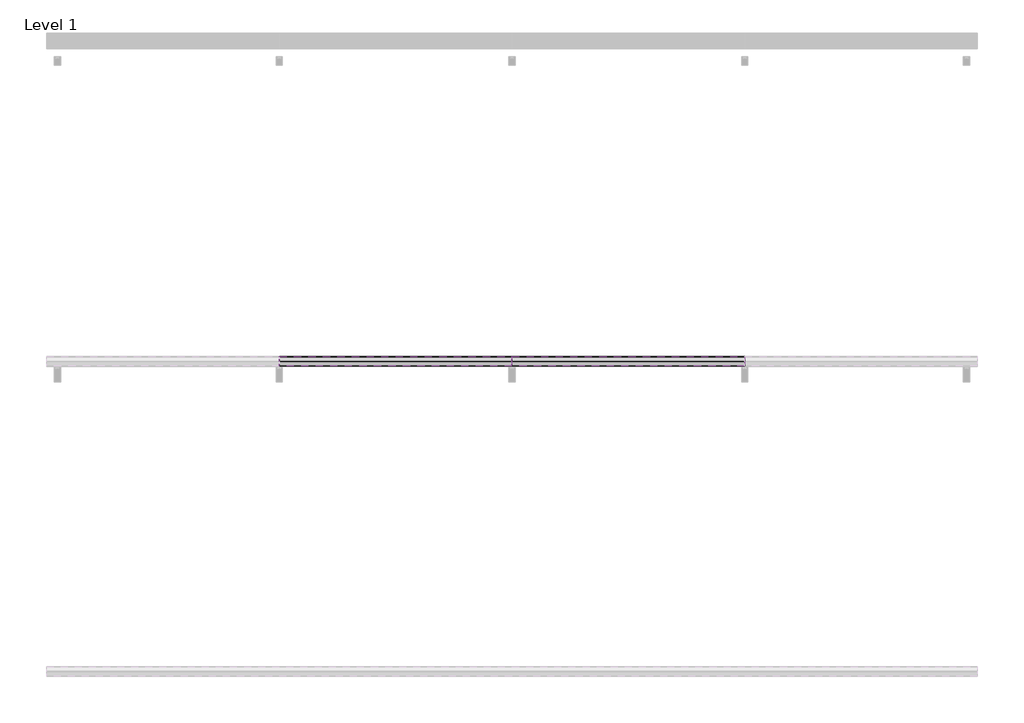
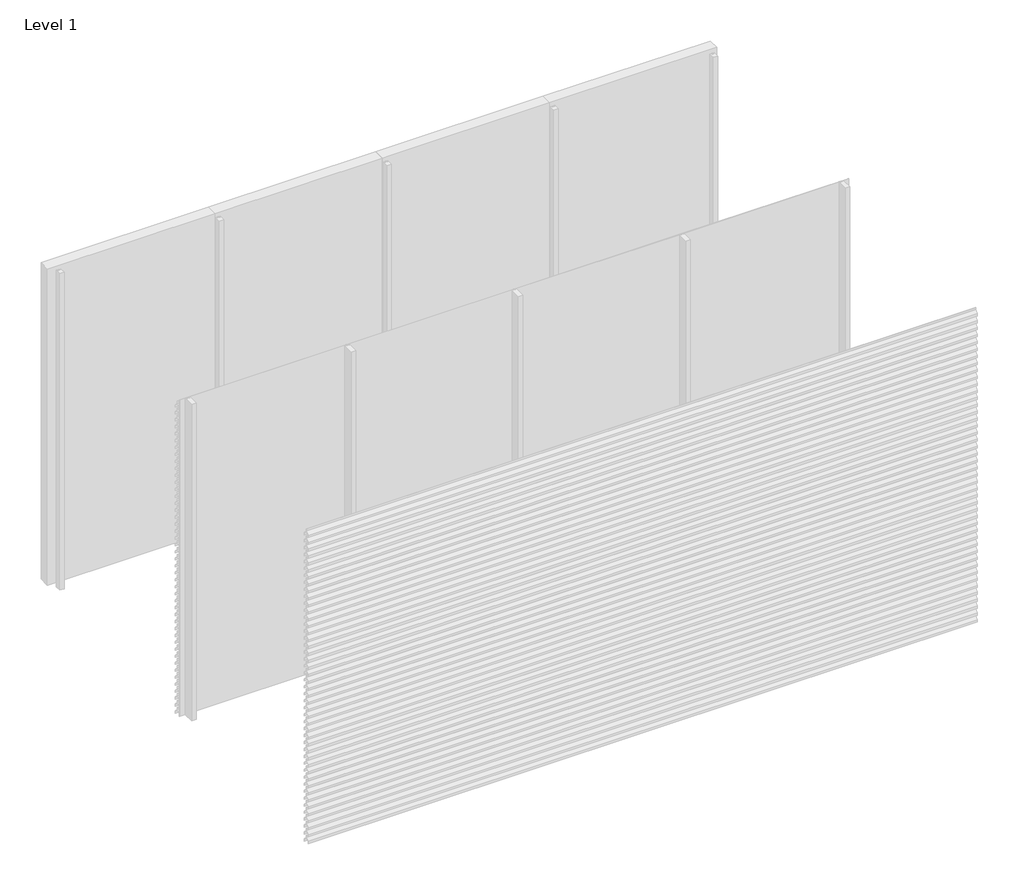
# One storey, part 14 of 35: 69 proxies.
"""IFC4 building model written with IfcOpenShell, lengths in millimetres."""

import ifcopenshell
import ifcopenshell.guid

model = None  # the IFC model being written
_history = None  # IfcOwnerHistory: only IFC2X3 demands one
_inside = {}  # id of a spatial element -> (the spatial element, [elements in it])
_under = {}  # id of a project, library or spatial element -> (it, [spatial elements below it])
_declared = {}  # id of a project -> (the project, [libraries it declares])
_typed = {}  # id of a type object -> (the type object, [elements of that type])
_made_of = {}  # id of a material, layer set ... -> (it, [elements and type objects made of it])


def new_model(schema):
    """Start an empty IFC model of exactly this schema.

    Asked for "IFC4X3", IfcOpenShell would pick the latest addendum, in which some entities
    have other attributes; the version numbers below select the first issue.
    IFC2X3 requires an IfcOwnerHistory on every rooted entity: one is made here for all.
    """
    global model, _history
    if schema == "IFC4X3":
        model = ifcopenshell.file(schema_version=(4, 3, 0, 0))
    else:
        model = ifcopenshell.file(schema=schema)
    _inside.clear()
    _under.clear()
    _declared.clear()
    _typed.clear()
    _made_of.clear()
    _history = None
    if model.schema == "IFC2X3":
        org = make("IfcOrganization", Name="unknown")
        user = make(
            "IfcPersonAndOrganization",
            ThePerson=make("IfcPerson", FamilyName="unknown"),
            TheOrganization=org,
        )
        app = make(
            "IfcApplication",
            ApplicationDeveloper=org,
            Version="unknown",
            ApplicationFullName="unknown",
            ApplicationIdentifier="unknown",
        )
        _history = make(
            "IfcOwnerHistory",
            OwningUser=user,
            OwningApplication=app,
            ChangeAction="ADDED",
            CreationDate=0,
        )
    return model


def make(cls, **values):
    """One entity of the class cls with the attributes given. An attribute that is None is left unset."""
    return model.create_entity(
        cls, **{name: value for name, value in values.items() if value is not None}
    )


def rooted(cls, **values):
    """An entity with a GlobalId (a new one), such as an element, a storey or a relation."""
    return make(cls, GlobalId=ifcopenshell.guid.new(), OwnerHistory=_history, **values)


def si_unit(unit_type, name, prefix=None):
    """IfcSIUnit, for example si_unit("LENGTHUNIT", "METRE", prefix="MILLI")."""
    return make("IfcSIUnit", UnitType=unit_type, Prefix=prefix, Name=name)


def assignment(units):
    """IfcUnitAssignment: the units of a project."""
    return None if units is None else make("IfcUnitAssignment", Units=units)


def point(xyz):
    """IfcCartesianPoint."""
    return None if xyz is None else make("IfcCartesianPoint", Coordinates=xyz)


def direction(xyz):
    """IfcDirection."""
    return None if xyz is None else make("IfcDirection", DirectionRatios=xyz)


def frame(location, z_axis=None, x_axis=None):
    """IfcAxis2Placement3D, a coordinate frame: its origin and axes. An axis left out is left unset."""
    return make(
        "IfcAxis2Placement3D",
        Location=point(location),
        Axis=direction(z_axis),
        RefDirection=direction(x_axis),
    )


def origin():
    """The frame at (0, 0, 0) with its axes left unset."""
    return frame((0.0, 0.0, 0.0))


def place(relative_to, where):
    """IfcLocalPlacement: puts the frame where relative to a parent placement (None: the world)."""
    return make(
        "IfcLocalPlacement", PlacementRelTo=relative_to, RelativePlacement=where
    )


def context(
    kind, dimensions, precision=None, world=None, true_north=None, identifier=None
):
    """IfcGeometricRepresentationContext, for example the 3D "Model" context."""
    return make(
        "IfcGeometricRepresentationContext",
        ContextIdentifier=identifier,
        ContextType=kind,
        CoordinateSpaceDimension=dimensions,
        Precision=precision,
        WorldCoordinateSystem=world,
        TrueNorth=true_north,
    )


def project(units=None, contexts=None):
    """IfcProject with its units and contexts."""
    return rooted(
        "IfcProject",
        Name="project",
        RepresentationContexts=contexts,
        UnitsInContext=assignment(units),
    )


def spatial(cls, under=None, at=None, **own):
    """A site, building, storey or space (cls), placed at a placement, below another one or the project."""
    s = rooted(cls, ObjectPlacement=at, **own)
    if under is not None:
        _under.setdefault(under.id(), (under, []))[1].append(s)
    return s


def polyline(points):
    """IfcPolyline through the points."""
    return make("IfcPolyline", Points=[point(p) for p in points])


def outline(outer, holes=None, kind="AREA"):
    """IfcArbitraryClosedProfileDef: a profile drawn as a closed curve; with holes, ...WithVoids."""
    if holes is None:
        return make("IfcArbitraryClosedProfileDef", ProfileType=kind, OuterCurve=outer)
    return make(
        "IfcArbitraryProfileDefWithVoids",
        ProfileType=kind,
        OuterCurve=outer,
        InnerCurves=holes,
    )


def extrude(swept, where, along, depth):
    """IfcExtrudedAreaSolid: the profile swept, set in the frame where, extruded along a direction by depth."""
    return make(
        "IfcExtrudedAreaSolid",
        SweptArea=swept,
        Position=where,
        ExtrudedDirection=direction(along),
        Depth=depth,
    )


def shape(context_of_items, identifier, shape_type, items):
    """IfcShapeRepresentation: the items that make up one representation, for example the "Body"."""
    return make(
        "IfcShapeRepresentation",
        ContextOfItems=context_of_items,
        RepresentationIdentifier=identifier,
        RepresentationType=shape_type,
        Items=items,
    )


def made_of(thing, what):
    """Note that an element or type object is made of a material, layer set ...; save() writes the relation."""
    if what is not None:
        _made_of.setdefault(what.id(), (what, []))[1].append(thing)
    return thing


def element(
    cls,
    number,
    at=None,
    inside=None,
    cuts=None,
    type_object=None,
    material=None,
    context=None,
    identifier="Body",
    shape_type=None,
    held_by="IfcProductDefinitionShape",
    body=None,
    shapes=None,
    **own,
):
    """One element of the class cls, such as IfcWall. Its Tag is "e" and its number.

    at: its placement. inside: the storey or other place that contains it. cuts: it is an
    opening in that element (IfcRelVoidsElement). A single representation is given by context,
    identifier, shape_type and body (its items); several are given by shapes. held_by: the class
    of the entity that holds the representations. save() writes the other relations.
    """
    e = rooted(cls, Tag="e%d" % number, ObjectPlacement=at, **own)
    if body is not None:
        shapes = [shape(context, identifier, shape_type, body)]
    if shapes is not None:
        e.Representation = make(held_by, Representations=shapes)
    if inside is not None:
        _inside.setdefault(inside.id(), (inside, []))[1].append(e)
    if cuts is not None:
        rooted(
            "IfcRelVoidsElement", RelatingBuildingElement=cuts, RelatedOpeningElement=e
        )
    if type_object is not None:
        _typed.setdefault(type_object.id(), (type_object, []))[1].append(e)
    return made_of(e, material)


def aggregate(whole, parts):
    """IfcRelAggregates: a whole, such as a stair, and the parts it consists of."""
    return rooted("IfcRelAggregates", RelatingObject=whole, RelatedObjects=parts)


def save(model, path):
    """Write the relations noted so far, then the file.

    IfcRelAggregates (storeys below a building ...), IfcRelContainedInSpatialStructure (elements
    in a storey), IfcRelDefinesByType, IfcRelAssociatesMaterial and IfcRelDeclares: one each for
    every whole, place, type object, material and project.
    """
    for whole, parts in _under.values():
        aggregate(whole, parts)
    for where, things in _inside.values():
        rooted(
            "IfcRelContainedInSpatialStructure",
            RelatedElements=things,
            RelatingStructure=where,
        )
    for kind, things in _typed.values():
        rooted("IfcRelDefinesByType", RelatedObjects=things, RelatingType=kind)
    for what, things in _made_of.values():
        rooted("IfcRelAssociatesMaterial", RelatedObjects=things, RelatingMaterial=what)
    for by, libraries in _declared.values():
        rooted("IfcRelDeclares", RelatingContext=by, RelatedDefinitions=libraries)
    model.write(path)


model = new_model("IFC4")

# Units and contexts
model_context = context("Model", 3, world=origin())
ifc_project = project(units=[si_unit("LENGTHUNIT", "METRE", prefix="MILLI")], contexts=[model_context])

# Site, building, storey
site = spatial("IfcSite", under=ifc_project)
building = spatial("IfcBuilding", under=site)
storey = spatial("IfcBuildingStorey", under=building, Name="Level 1", Elevation=0.0)

# Proxies
placement = place(None, origin())
element("IfcBuildingElementProxy", 1, Name="Wall Sweeps", at=placement, inside=storey, context=model_context, shape_type="SweptSolid", body=[
    extrude(outline(polyline([(-35936.0, 2586.0), (-35936.0, 2566.0), (-35937.25, 2566.0), (-35937.25, 2585.4342979), (-35968.1138939, 2618.531772), (-35996.7, 2598.4392868), (-35996.7, 2579.6629874), (-35998.0, 2578.8506572), (-35998.0, 2599.1145472), (-35968.537525, 2619.823011), (-35968.537525, 2640.0), (-35967.1772624, 2640.0), (-35967.1772624, 2619.4335207), (-35936.0, 2586.0)])), frame((1500.0, 0.0, 0.0), z_axis=(1.0, 0.0, 0.0), x_axis=(0.0, 1.0, 0.0)), (0.0, 0.0, 1.0), 1500.0),
])
element("IfcBuildingElementProxy", 2, Name="Wall Sweeps", at=placement, inside=storey, context=model_context, shape_type="SweptSolid", body=[
    extrude(outline(polyline([(-35936.0, 2520.0), (-35936.0, 2500.0), (-35937.25, 2500.0), (-35937.25, 2519.4342979), (-35968.1138939, 2552.531772), (-35996.7, 2532.4392868), (-35996.7, 2513.6629874), (-35998.0, 2512.8506572), (-35998.0, 2533.1145472), (-35968.537525, 2553.823011), (-35968.537525, 2574.0), (-35967.1772624, 2574.0), (-35967.1772624, 2553.4335207), (-35936.0, 2520.0)])), frame((1500.0, 0.0, 0.0), z_axis=(1.0, 0.0, 0.0), x_axis=(0.0, 1.0, 0.0)), (0.0, 0.0, 1.0), 1500.0),
])
element("IfcBuildingElementProxy", 3, Name="Wall Sweeps", at=placement, inside=storey, context=model_context, shape_type="SweptSolid", body=[
    extrude(outline(polyline([(-35936.0, 2454.0), (-35936.0, 2434.0), (-35937.25, 2434.0), (-35937.25, 2453.4342979), (-35968.1138939, 2486.531772), (-35996.7, 2466.4392868), (-35996.7, 2447.6629874), (-35998.0, 2446.8506572), (-35998.0, 2467.1145472), (-35968.537525, 2487.823011), (-35968.537525, 2508.0), (-35967.1772624, 2508.0), (-35967.1772624, 2487.4335207), (-35936.0, 2454.0)])), frame((1500.0, 0.0, 0.0), z_axis=(1.0, 0.0, 0.0), x_axis=(0.0, 1.0, 0.0)), (0.0, 0.0, 1.0), 1500.0),
])
element("IfcBuildingElementProxy", 4, Name="Wall Sweeps", at=placement, inside=storey, context=model_context, shape_type="SweptSolid", body=[
    extrude(outline(polyline([(-35936.0, 2388.0), (-35936.0, 2368.0), (-35937.25, 2368.0), (-35937.25, 2387.4342979), (-35968.1138939, 2420.531772), (-35996.7, 2400.4392868), (-35996.7, 2381.6629874), (-35998.0, 2380.8506572), (-35998.0, 2401.1145472), (-35968.537525, 2421.823011), (-35968.537525, 2442.0), (-35967.1772624, 2442.0), (-35967.1772624, 2421.4335207), (-35936.0, 2388.0)])), frame((1500.0, 0.0, 0.0), z_axis=(1.0, 0.0, 0.0), x_axis=(0.0, 1.0, 0.0)), (0.0, 0.0, 1.0), 1500.0),
])
element("IfcBuildingElementProxy", 5, Name="Wall Sweeps", at=placement, inside=storey, context=model_context, shape_type="SweptSolid", body=[
    extrude(outline(polyline([(-35936.0, 2322.0), (-35936.0, 2302.0), (-35937.25, 2302.0), (-35937.25, 2321.4342979), (-35968.1138939, 2354.531772), (-35996.7, 2334.4392868), (-35996.7, 2315.6629874), (-35998.0, 2314.8506572), (-35998.0, 2335.1145472), (-35968.537525, 2355.823011), (-35968.537525, 2376.0), (-35967.1772624, 2376.0), (-35967.1772624, 2355.4335207), (-35936.0, 2322.0)])), frame((1500.0, 0.0, 0.0), z_axis=(1.0, 0.0, 0.0), x_axis=(0.0, 1.0, 0.0)), (0.0, 0.0, 1.0), 1500.0),
])
element("IfcBuildingElementProxy", 6, Name="Wall Sweeps", at=placement, inside=storey, context=model_context, shape_type="SweptSolid", body=[
    extrude(outline(polyline([(-35936.0, 2256.0), (-35936.0, 2236.0), (-35937.25, 2236.0), (-35937.25, 2255.4342979), (-35968.1138939, 2288.531772), (-35996.7, 2268.4392868), (-35996.7, 2249.6629874), (-35998.0, 2248.8506572), (-35998.0, 2269.1145472), (-35968.537525, 2289.823011), (-35968.537525, 2310.0), (-35967.1772624, 2310.0), (-35967.1772624, 2289.4335207), (-35936.0, 2256.0)])), frame((1500.0, 0.0, 0.0), z_axis=(1.0, 0.0, 0.0), x_axis=(0.0, 1.0, 0.0)), (0.0, 0.0, 1.0), 1500.0),
])
element("IfcBuildingElementProxy", 7, Name="Wall Sweeps", at=placement, inside=storey, context=model_context, shape_type="SweptSolid", body=[
    extrude(outline(polyline([(-35936.0, 2190.0), (-35936.0, 2170.0), (-35937.25, 2170.0), (-35937.25, 2189.4342979), (-35968.1138939, 2222.531772), (-35996.7, 2202.4392868), (-35996.7, 2183.6629874), (-35998.0, 2182.8506572), (-35998.0, 2203.1145472), (-35968.537525, 2223.823011), (-35968.537525, 2244.0), (-35967.1772624, 2244.0), (-35967.1772624, 2223.4335207), (-35936.0, 2190.0)])), frame((1500.0, 0.0, 0.0), z_axis=(1.0, 0.0, 0.0), x_axis=(0.0, 1.0, 0.0)), (0.0, 0.0, 1.0), 1500.0),
])
element("IfcBuildingElementProxy", 8, Name="Wall Sweeps", at=placement, inside=storey, context=model_context, shape_type="SweptSolid", body=[
    extrude(outline(polyline([(-35936.0, 2124.0), (-35936.0, 2104.0), (-35937.25, 2104.0), (-35937.25, 2123.4342979), (-35968.1138939, 2156.531772), (-35996.7, 2136.4392868), (-35996.7, 2117.6629874), (-35998.0, 2116.8506572), (-35998.0, 2137.1145472), (-35968.537525, 2157.823011), (-35968.537525, 2178.0), (-35967.1772624, 2178.0), (-35967.1772624, 2157.4335207), (-35936.0, 2124.0)])), frame((1500.0, 0.0, 0.0), z_axis=(1.0, 0.0, 0.0), x_axis=(0.0, 1.0, 0.0)), (0.0, 0.0, 1.0), 1500.0),
])
element("IfcBuildingElementProxy", 9, Name="Wall Sweeps", at=placement, inside=storey, context=model_context, shape_type="SweptSolid", body=[
    extrude(outline(polyline([(-35936.0, 2058.0), (-35936.0, 2038.0), (-35937.25, 2038.0), (-35937.25, 2057.4342979), (-35968.1138939, 2090.531772), (-35996.7, 2070.4392868), (-35996.7, 2051.6629874), (-35998.0, 2050.8506572), (-35998.0, 2071.1145472), (-35968.537525, 2091.823011), (-35968.537525, 2112.0), (-35967.1772624, 2112.0), (-35967.1772624, 2091.4335207), (-35936.0, 2058.0)])), frame((1500.0, 0.0, 0.0), z_axis=(1.0, 0.0, 0.0), x_axis=(0.0, 1.0, 0.0)), (0.0, 0.0, 1.0), 1500.0),
])
element("IfcBuildingElementProxy", 10, Name="Wall Sweeps", at=placement, inside=storey, context=model_context, shape_type="SweptSolid", body=[
    extrude(outline(polyline([(-35936.0, 1992.0), (-35936.0, 1972.0), (-35937.25, 1972.0), (-35937.25, 1991.4342979), (-35968.1138939, 2024.531772), (-35996.7, 2004.4392868), (-35996.7, 1985.6629874), (-35998.0, 1984.8506572), (-35998.0, 2005.1145472), (-35968.537525, 2025.823011), (-35968.537525, 2046.0), (-35967.1772624, 2046.0), (-35967.1772624, 2025.4335207), (-35936.0, 1992.0)])), frame((1500.0, 0.0, 0.0), z_axis=(1.0, 0.0, 0.0), x_axis=(0.0, 1.0, 0.0)), (0.0, 0.0, 1.0), 1500.0),
])
element("IfcBuildingElementProxy", 11, Name="Wall Sweeps", at=placement, inside=storey, context=model_context, shape_type="SweptSolid", body=[
    extrude(outline(polyline([(-35936.0, 1926.0), (-35936.0, 1906.0), (-35937.25, 1906.0), (-35937.25, 1925.4342979), (-35968.1138939, 1958.531772), (-35996.7, 1938.4392868), (-35996.7, 1919.6629874), (-35998.0, 1918.8506572), (-35998.0, 1939.1145472), (-35968.537525, 1959.823011), (-35968.537525, 1980.0), (-35967.1772624, 1980.0), (-35967.1772624, 1959.4335207), (-35936.0, 1926.0)])), frame((1500.0, 0.0, 0.0), z_axis=(1.0, 0.0, 0.0), x_axis=(0.0, 1.0, 0.0)), (0.0, 0.0, 1.0), 1500.0),
])
element("IfcBuildingElementProxy", 12, Name="Wall Sweeps", at=placement, inside=storey, context=model_context, shape_type="SweptSolid", body=[
    extrude(outline(polyline([(-35936.0, 1860.0), (-35936.0, 1840.0), (-35937.25, 1840.0), (-35937.25, 1859.4342979), (-35968.1138939, 1892.531772), (-35996.7, 1872.4392868), (-35996.7, 1853.6629874), (-35998.0, 1852.8506572), (-35998.0, 1873.1145472), (-35968.537525, 1893.823011), (-35968.537525, 1914.0), (-35967.1772624, 1914.0), (-35967.1772624, 1893.4335207), (-35936.0, 1860.0)])), frame((1500.0, 0.0, 0.0), z_axis=(1.0, 0.0, 0.0), x_axis=(0.0, 1.0, 0.0)), (0.0, 0.0, 1.0), 1500.0),
])
element("IfcBuildingElementProxy", 13, Name="Wall Sweeps", at=placement, inside=storey, context=model_context, shape_type="SweptSolid", body=[
    extrude(outline(polyline([(-35936.0, 1794.0), (-35936.0, 1774.0), (-35937.25, 1774.0), (-35937.25, 1793.4342979), (-35968.1138939, 1826.531772), (-35996.7, 1806.4392868), (-35996.7, 1787.6629874), (-35998.0, 1786.8506572), (-35998.0, 1807.1145472), (-35968.537525, 1827.823011), (-35968.537525, 1848.0), (-35967.1772624, 1848.0), (-35967.1772624, 1827.4335207), (-35936.0, 1794.0)])), frame((1500.0, 0.0, 0.0), z_axis=(1.0, 0.0, 0.0), x_axis=(0.0, 1.0, 0.0)), (0.0, 0.0, 1.0), 1500.0),
])
element("IfcBuildingElementProxy", 14, Name="Wall Sweeps", at=placement, inside=storey, context=model_context, shape_type="SweptSolid", body=[
    extrude(outline(polyline([(-35936.0, 1728.0), (-35936.0, 1708.0), (-35937.25, 1708.0), (-35937.25, 1727.4342979), (-35968.1138939, 1760.531772), (-35996.7, 1740.4392868), (-35996.7, 1721.6629874), (-35998.0, 1720.8506572), (-35998.0, 1741.1145472), (-35968.537525, 1761.823011), (-35968.537525, 1782.0), (-35967.1772624, 1782.0), (-35967.1772624, 1761.4335207), (-35936.0, 1728.0)])), frame((1500.0, 0.0, 0.0), z_axis=(1.0, 0.0, 0.0), x_axis=(0.0, 1.0, 0.0)), (0.0, 0.0, 1.0), 1500.0),
])
element("IfcBuildingElementProxy", 15, Name="Wall Sweeps", at=placement, inside=storey, context=model_context, shape_type="SweptSolid", body=[
    extrude(outline(polyline([(-35936.0, 1662.0), (-35936.0, 1642.0), (-35937.25, 1642.0), (-35937.25, 1661.4342979), (-35968.1138939, 1694.531772), (-35996.7, 1674.4392868), (-35996.7, 1655.6629874), (-35998.0, 1654.8506572), (-35998.0, 1675.1145472), (-35968.537525, 1695.823011), (-35968.537525, 1716.0), (-35967.1772624, 1716.0), (-35967.1772624, 1695.4335207), (-35936.0, 1662.0)])), frame((1500.0, 0.0, 0.0), z_axis=(1.0, 0.0, 0.0), x_axis=(0.0, 1.0, 0.0)), (0.0, 0.0, 1.0), 1500.0),
])
element("IfcBuildingElementProxy", 16, Name="Wall Sweeps", at=placement, inside=storey, context=model_context, shape_type="SweptSolid", body=[
    extrude(outline(polyline([(-35936.0, 1596.0), (-35936.0, 1576.0), (-35937.25, 1576.0), (-35937.25, 1595.4342979), (-35968.1138939, 1628.531772), (-35996.7, 1608.4392868), (-35996.7, 1589.6629874), (-35998.0, 1588.8506572), (-35998.0, 1609.1145472), (-35968.537525, 1629.823011), (-35968.537525, 1650.0), (-35967.1772624, 1650.0), (-35967.1772624, 1629.4335207), (-35936.0, 1596.0)])), frame((1500.0, 0.0, 0.0), z_axis=(1.0, 0.0, 0.0), x_axis=(0.0, 1.0, 0.0)), (0.0, 0.0, 1.0), 1500.0),
])
element("IfcBuildingElementProxy", 17, Name="Wall Sweeps", at=placement, inside=storey, context=model_context, shape_type="SweptSolid", body=[
    extrude(outline(polyline([(-35936.0, 1530.0), (-35936.0, 1510.0), (-35937.25, 1510.0), (-35937.25, 1529.4342979), (-35968.1138939, 1562.531772), (-35996.7, 1542.4392868), (-35996.7, 1523.6629874), (-35998.0, 1522.8506572), (-35998.0, 1543.1145472), (-35968.537525, 1563.823011), (-35968.537525, 1584.0), (-35967.1772624, 1584.0), (-35967.1772624, 1563.4335207), (-35936.0, 1530.0)])), frame((1500.0, 0.0, 0.0), z_axis=(1.0, 0.0, 0.0), x_axis=(0.0, 1.0, 0.0)), (0.0, 0.0, 1.0), 1500.0),
])
element("IfcBuildingElementProxy", 18, Name="Wall Sweeps", at=placement, inside=storey, context=model_context, shape_type="SweptSolid", body=[
    extrude(outline(polyline([(-35936.0, 1464.0), (-35936.0, 1444.0), (-35937.25, 1444.0), (-35937.25, 1463.4342979), (-35968.1138939, 1496.531772), (-35996.7, 1476.4392868), (-35996.7, 1457.6629874), (-35998.0, 1456.8506572), (-35998.0, 1477.1145472), (-35968.537525, 1497.823011), (-35968.537525, 1518.0), (-35967.1772624, 1518.0), (-35967.1772624, 1497.4335207), (-35936.0, 1464.0)])), frame((1500.0, 0.0, 0.0), z_axis=(1.0, 0.0, 0.0), x_axis=(0.0, 1.0, 0.0)), (0.0, 0.0, 1.0), 1500.0),
])
element("IfcBuildingElementProxy", 19, Name="Wall Sweeps", at=placement, inside=storey, context=model_context, shape_type="SweptSolid", body=[
    extrude(outline(polyline([(-35936.0, 1398.0), (-35936.0, 1378.0), (-35937.25, 1378.0), (-35937.25, 1397.4342979), (-35968.1138939, 1430.531772), (-35996.7, 1410.4392868), (-35996.7, 1391.6629874), (-35998.0, 1390.8506572), (-35998.0, 1411.1145472), (-35968.537525, 1431.823011), (-35968.537525, 1452.0), (-35967.1772624, 1452.0), (-35967.1772624, 1431.4335207), (-35936.0, 1398.0)])), frame((1500.0, 0.0, 0.0), z_axis=(1.0, 0.0, 0.0), x_axis=(0.0, 1.0, 0.0)), (0.0, 0.0, 1.0), 1500.0),
])
element("IfcBuildingElementProxy", 20, Name="Wall Sweeps", at=placement, inside=storey, context=model_context, shape_type="SweptSolid", body=[
    extrude(outline(polyline([(-35936.0, 1332.0), (-35936.0, 1312.0), (-35937.25, 1312.0), (-35937.25, 1331.4342979), (-35968.1138939, 1364.531772), (-35996.7, 1344.4392868), (-35996.7, 1325.6629874), (-35998.0, 1324.8506572), (-35998.0, 1345.1145472), (-35968.537525, 1365.823011), (-35968.537525, 1386.0), (-35967.1772624, 1386.0), (-35967.1772624, 1365.4335207), (-35936.0, 1332.0)])), frame((1500.0, 0.0, 0.0), z_axis=(1.0, 0.0, 0.0), x_axis=(0.0, 1.0, 0.0)), (0.0, 0.0, 1.0), 1500.0),
])
element("IfcBuildingElementProxy", 21, Name="Wall Sweeps", at=placement, inside=storey, context=model_context, shape_type="SweptSolid", body=[
    extrude(outline(polyline([(-35936.0, 1266.0), (-35936.0, 1246.0), (-35937.25, 1246.0), (-35937.25, 1265.4342979), (-35968.1138939, 1298.531772), (-35996.7, 1278.4392868), (-35996.7, 1259.6629874), (-35998.0, 1258.8506572), (-35998.0, 1279.1145472), (-35968.537525, 1299.823011), (-35968.537525, 1320.0), (-35967.1772624, 1320.0), (-35967.1772624, 1299.4335207), (-35936.0, 1266.0)])), frame((1500.0, 0.0, 0.0), z_axis=(1.0, 0.0, 0.0), x_axis=(0.0, 1.0, 0.0)), (0.0, 0.0, 1.0), 1500.0),
])
element("IfcBuildingElementProxy", 22, Name="Wall Sweeps", at=placement, inside=storey, context=model_context, shape_type="SweptSolid", body=[
    extrude(outline(polyline([(-35936.0, 1200.0), (-35936.0, 1180.0), (-35937.25, 1180.0), (-35937.25, 1199.4342979), (-35968.1138939, 1232.531772), (-35996.7, 1212.4392868), (-35996.7, 1193.6629874), (-35998.0, 1192.8506572), (-35998.0, 1213.1145472), (-35968.537525, 1233.823011), (-35968.537525, 1254.0), (-35967.1772624, 1254.0), (-35967.1772624, 1233.4335207), (-35936.0, 1200.0)])), frame((1500.0, 0.0, 0.0), z_axis=(1.0, 0.0, 0.0), x_axis=(0.0, 1.0, 0.0)), (0.0, 0.0, 1.0), 1500.0),
])
element("IfcBuildingElementProxy", 23, Name="Wall Sweeps", at=placement, inside=storey, context=model_context, shape_type="SweptSolid", body=[
    extrude(outline(polyline([(-35936.0, 1134.0), (-35936.0, 1114.0), (-35937.25, 1114.0), (-35937.25, 1133.4342979), (-35968.1138939, 1166.531772), (-35996.7, 1146.4392868), (-35996.7, 1127.6629874), (-35998.0, 1126.8506572), (-35998.0, 1147.1145472), (-35968.537525, 1167.823011), (-35968.537525, 1188.0), (-35967.1772624, 1188.0), (-35967.1772624, 1167.4335207), (-35936.0, 1134.0)])), frame((1500.0, 0.0, 0.0), z_axis=(1.0, 0.0, 0.0), x_axis=(0.0, 1.0, 0.0)), (0.0, 0.0, 1.0), 1500.0),
])
element("IfcBuildingElementProxy", 24, Name="Wall Sweeps", at=placement, inside=storey, context=model_context, shape_type="SweptSolid", body=[
    extrude(outline(polyline([(-35936.0, 1068.0), (-35936.0, 1048.0), (-35937.25, 1048.0), (-35937.25, 1067.4342979), (-35968.1138939, 1100.531772), (-35996.7, 1080.4392868), (-35996.7, 1061.6629874), (-35998.0, 1060.8506572), (-35998.0, 1081.1145472), (-35968.537525, 1101.823011), (-35968.537525, 1122.0), (-35967.1772624, 1122.0), (-35967.1772624, 1101.4335207), (-35936.0, 1068.0)])), frame((1500.0, 0.0, 0.0), z_axis=(1.0, 0.0, 0.0), x_axis=(0.0, 1.0, 0.0)), (0.0, 0.0, 1.0), 1500.0),
])
element("IfcBuildingElementProxy", 25, Name="Wall Sweeps", at=placement, inside=storey, context=model_context, shape_type="SweptSolid", body=[
    extrude(outline(polyline([(-35936.0, 1002.0), (-35936.0, 982.0), (-35937.25, 982.0), (-35937.25, 1001.4342979), (-35968.1138939, 1034.531772), (-35996.7, 1014.4392868), (-35996.7, 995.6629874), (-35998.0, 994.8506572), (-35998.0, 1015.1145472), (-35968.537525, 1035.823011), (-35968.537525, 1056.0), (-35967.1772624, 1056.0), (-35967.1772624, 1035.4335207), (-35936.0, 1002.0)])), frame((1500.0, 0.0, 0.0), z_axis=(1.0, 0.0, 0.0), x_axis=(0.0, 1.0, 0.0)), (0.0, 0.0, 1.0), 1500.0),
])
element("IfcBuildingElementProxy", 26, Name="Wall Sweeps", at=placement, inside=storey, context=model_context, shape_type="SweptSolid", body=[
    extrude(outline(polyline([(-35936.0, 936.0), (-35936.0, 916.0), (-35937.25, 916.0), (-35937.25, 935.4342979), (-35968.1138939, 968.531772), (-35996.7, 948.4392868), (-35996.7, 929.6629874), (-35998.0, 928.8506572), (-35998.0, 949.1145472), (-35968.537525, 969.823011), (-35968.537525, 990.0), (-35967.1772624, 990.0), (-35967.1772624, 969.4335207), (-35936.0, 936.0)])), frame((1500.0, 0.0, 0.0), z_axis=(1.0, 0.0, 0.0), x_axis=(0.0, 1.0, 0.0)), (0.0, 0.0, 1.0), 1500.0),
])
element("IfcBuildingElementProxy", 27, Name="Wall Sweeps", at=placement, inside=storey, context=model_context, shape_type="SweptSolid", body=[
    extrude(outline(polyline([(-35936.0, 870.0), (-35936.0, 850.0), (-35937.25, 850.0), (-35937.25, 869.4342979), (-35968.1138939, 902.531772), (-35996.7, 882.4392868), (-35996.7, 863.6629874), (-35998.0, 862.8506572), (-35998.0, 883.1145472), (-35968.537525, 903.823011), (-35968.537525, 924.0), (-35967.1772624, 924.0), (-35967.1772624, 903.4335207), (-35936.0, 870.0)])), frame((1500.0, 0.0, 0.0), z_axis=(1.0, 0.0, 0.0), x_axis=(0.0, 1.0, 0.0)), (0.0, 0.0, 1.0), 1500.0),
])
element("IfcBuildingElementProxy", 28, Name="Wall Sweeps", at=placement, inside=storey, context=model_context, shape_type="SweptSolid", body=[
    extrude(outline(polyline([(-35936.0, 804.0), (-35936.0, 784.0), (-35937.25, 784.0), (-35937.25, 803.4342979), (-35968.1138939, 836.531772), (-35996.7, 816.4392868), (-35996.7, 797.6629874), (-35998.0, 796.8506572), (-35998.0, 817.1145472), (-35968.537525, 837.823011), (-35968.537525, 858.0), (-35967.1772624, 858.0), (-35967.1772624, 837.4335207), (-35936.0, 804.0)])), frame((1500.0, 0.0, 0.0), z_axis=(1.0, 0.0, 0.0), x_axis=(0.0, 1.0, 0.0)), (0.0, 0.0, 1.0), 1500.0),
])
element("IfcBuildingElementProxy", 29, Name="Wall Sweeps", at=placement, inside=storey, context=model_context, shape_type="SweptSolid", body=[
    extrude(outline(polyline([(-35936.0, 738.0), (-35936.0, 718.0), (-35937.25, 718.0), (-35937.25, 737.4342979), (-35968.1138939, 770.531772), (-35996.7, 750.4392868), (-35996.7, 731.6629874), (-35998.0, 730.8506572), (-35998.0, 751.1145472), (-35968.537525, 771.823011), (-35968.537525, 792.0), (-35967.1772624, 792.0), (-35967.1772624, 771.4335207), (-35936.0, 738.0)])), frame((1500.0, 0.0, 0.0), z_axis=(1.0, 0.0, 0.0), x_axis=(0.0, 1.0, 0.0)), (0.0, 0.0, 1.0), 1500.0),
])
element("IfcBuildingElementProxy", 30, Name="Wall Sweeps", at=placement, inside=storey, context=model_context, shape_type="SweptSolid", body=[
    extrude(outline(polyline([(-35936.0, 672.0), (-35936.0, 652.0), (-35937.25, 652.0), (-35937.25, 671.4342979), (-35968.1138939, 704.531772), (-35996.7, 684.4392868), (-35996.7, 665.6629874), (-35998.0, 664.8506572), (-35998.0, 685.1145472), (-35968.537525, 705.823011), (-35968.537525, 726.0), (-35967.1772624, 726.0), (-35967.1772624, 705.4335207), (-35936.0, 672.0)])), frame((1500.0, 0.0, 0.0), z_axis=(1.0, 0.0, 0.0), x_axis=(0.0, 1.0, 0.0)), (0.0, 0.0, 1.0), 1500.0),
])
element("IfcBuildingElementProxy", 31, Name="Wall Sweeps", at=placement, inside=storey, context=model_context, shape_type="SweptSolid", body=[
    extrude(outline(polyline([(-35936.0, 606.0), (-35936.0, 586.0), (-35937.25, 586.0), (-35937.25, 605.4342979), (-35968.1138939, 638.531772), (-35996.7, 618.4392868), (-35996.7, 599.6629874), (-35998.0, 598.8506572), (-35998.0, 619.1145472), (-35968.537525, 639.823011), (-35968.537525, 660.0), (-35967.1772624, 660.0), (-35967.1772624, 639.4335207), (-35936.0, 606.0)])), frame((1500.0, 0.0, 0.0), z_axis=(1.0, 0.0, 0.0), x_axis=(0.0, 1.0, 0.0)), (0.0, 0.0, 1.0), 1500.0),
])
element("IfcBuildingElementProxy", 32, Name="Wall Sweeps", at=placement, inside=storey, context=model_context, shape_type="SweptSolid", body=[
    extrude(outline(polyline([(-35936.0, 540.0), (-35936.0, 520.0), (-35937.25, 520.0), (-35937.25, 539.4342979), (-35968.1138939, 572.531772), (-35996.7, 552.4392868), (-35996.7, 533.6629874), (-35998.0, 532.8506572), (-35998.0, 553.1145472), (-35968.537525, 573.823011), (-35968.537525, 594.0), (-35967.1772624, 594.0), (-35967.1772624, 573.4335207), (-35936.0, 540.0)])), frame((1500.0, 0.0, 0.0), z_axis=(1.0, 0.0, 0.0), x_axis=(0.0, 1.0, 0.0)), (0.0, 0.0, 1.0), 1500.0),
])
element("IfcBuildingElementProxy", 33, Name="Wall Sweeps", at=placement, inside=storey, context=model_context, shape_type="SweptSolid", body=[
    extrude(outline(polyline([(-35936.0, 474.0), (-35936.0, 454.0), (-35937.25, 454.0), (-35937.25, 473.4342979), (-35968.1138939, 506.531772), (-35996.7, 486.4392868), (-35996.7, 467.6629874), (-35998.0, 466.8506572), (-35998.0, 487.1145472), (-35968.537525, 507.823011), (-35968.537525, 528.0), (-35967.1772624, 528.0), (-35967.1772624, 507.4335207), (-35936.0, 474.0)])), frame((1500.0, 0.0, 0.0), z_axis=(1.0, 0.0, 0.0), x_axis=(0.0, 1.0, 0.0)), (0.0, 0.0, 1.0), 1500.0),
])
element("IfcBuildingElementProxy", 34, Name="Wall Sweeps", at=placement, inside=storey, context=model_context, shape_type="SweptSolid", body=[
    extrude(outline(polyline([(-35936.0, 408.0), (-35936.0, 388.0), (-35937.25, 388.0), (-35937.25, 407.4342979), (-35968.1138939, 440.531772), (-35996.7, 420.4392868), (-35996.7, 401.6629874), (-35998.0, 400.8506572), (-35998.0, 421.1145472), (-35968.537525, 441.823011), (-35968.537525, 462.0), (-35967.1772624, 462.0), (-35967.1772624, 441.4335207), (-35936.0, 408.0)])), frame((1500.0, 0.0, 0.0), z_axis=(1.0, 0.0, 0.0), x_axis=(0.0, 1.0, 0.0)), (0.0, 0.0, 1.0), 1500.0),
])
element("IfcBuildingElementProxy", 35, Name="Wall Sweeps", at=placement, inside=storey, context=model_context, shape_type="SweptSolid", body=[
    extrude(outline(polyline([(-35936.0, 342.0), (-35936.0, 322.0), (-35937.25, 322.0), (-35937.25, 341.4342979), (-35968.1138939, 374.531772), (-35996.7, 354.4392868), (-35996.7, 335.6629874), (-35998.0, 334.8506572), (-35998.0, 355.1145472), (-35968.537525, 375.823011), (-35968.537525, 396.0), (-35967.1772624, 396.0), (-35967.1772624, 375.4335207), (-35936.0, 342.0)])), frame((1500.0, 0.0, 0.0), z_axis=(1.0, 0.0, 0.0), x_axis=(0.0, 1.0, 0.0)), (0.0, 0.0, 1.0), 1500.0),
])
element("IfcBuildingElementProxy", 36, Name="Wall Sweeps", at=placement, inside=storey, context=model_context, shape_type="SweptSolid", body=[
    extrude(outline(polyline([(-35936.0, 276.0), (-35936.0, 256.0), (-35937.25, 256.0), (-35937.25, 275.4342979), (-35968.1138939, 308.531772), (-35996.7, 288.4392868), (-35996.7, 269.6629874), (-35998.0, 268.8506572), (-35998.0, 289.1145472), (-35968.537525, 309.823011), (-35968.537525, 330.0), (-35967.1772624, 330.0), (-35967.1772624, 309.4335207), (-35936.0, 276.0)])), frame((1500.0, 0.0, 0.0), z_axis=(1.0, 0.0, 0.0), x_axis=(0.0, 1.0, 0.0)), (0.0, 0.0, 1.0), 1500.0),
])
element("IfcBuildingElementProxy", 37, Name="Wall Sweeps", at=placement, inside=storey, context=model_context, shape_type="SweptSolid", body=[
    extrude(outline(polyline([(-35936.0, 210.0), (-35936.0, 190.0), (-35937.25, 190.0), (-35937.25, 209.4342979), (-35968.1138939, 242.531772), (-35996.7, 222.4392868), (-35996.7, 203.6629874), (-35998.0, 202.8506572), (-35998.0, 223.1145472), (-35968.537525, 243.823011), (-35968.537525, 264.0), (-35967.1772624, 264.0), (-35967.1772624, 243.4335207), (-35936.0, 210.0)])), frame((1500.0, 0.0, 0.0), z_axis=(1.0, 0.0, 0.0), x_axis=(0.0, 1.0, 0.0)), (0.0, 0.0, 1.0), 1500.0),
])
element("IfcBuildingElementProxy", 38, Name="Wall Sweeps", at=placement, inside=storey, context=model_context, shape_type="SweptSolid", body=[
    extrude(outline(polyline([(-35936.0, 144.0), (-35936.0, 124.0), (-35937.25, 124.0), (-35937.25, 143.4342979), (-35968.1138939, 176.531772), (-35996.7, 156.4392868), (-35996.7, 137.6629874), (-35998.0, 136.8506572), (-35998.0, 157.1145472), (-35968.537525, 177.823011), (-35968.537525, 198.0), (-35967.1772624, 198.0), (-35967.1772624, 177.4335207), (-35936.0, 144.0)])), frame((1500.0, 0.0, 0.0), z_axis=(1.0, 0.0, 0.0), x_axis=(0.0, 1.0, 0.0)), (0.0, 0.0, 1.0), 1500.0),
])
element("IfcBuildingElementProxy", 39, Name="Wall Sweeps", at=placement, inside=storey, context=model_context, shape_type="SweptSolid", body=[
    extrude(outline(polyline([(-35936.0, 78.0), (-35936.0, 58.0), (-35937.25, 58.0), (-35937.25, 77.4342979), (-35968.1138939, 110.531772), (-35996.7, 90.4392868), (-35996.7, 71.6629874), (-35998.0, 70.8506572), (-35998.0, 91.1145472), (-35968.537525, 111.823011), (-35968.537525, 132.0), (-35967.1772624, 132.0), (-35967.1772624, 111.4335207), (-35936.0, 78.0)])), frame((1500.0, 0.0, 0.0), z_axis=(1.0, 0.0, 0.0), x_axis=(0.0, 1.0, 0.0)), (0.0, 0.0, 1.0), 1500.0),
])
element("IfcBuildingElementProxy", 40, Name="Wall Sweeps", at=placement, inside=storey, context=model_context, shape_type="SweptSolid", body=[
    extrude(outline(polyline([(-35936.0, 12.0), (-35936.0, -8.0), (-35937.25, -8.0), (-35937.25, 11.4342979), (-35968.1138939, 44.531772), (-35996.7, 24.4392868), (-35996.7, 5.6629874), (-35998.0, 4.8506572), (-35998.0, 25.1145472), (-35968.537525, 45.823011), (-35968.537525, 66.0), (-35967.1772624, 66.0), (-35967.1772624, 45.4335207), (-35936.0, 12.0)])), frame((1500.0, 0.0, 0.0), z_axis=(1.0, 0.0, 0.0), x_axis=(0.0, 1.0, 0.0)), (0.0, 0.0, 1.0), 1500.0),
])
element("IfcBuildingElementProxy", 41, Name="Wall Sweeps", at=placement, inside=storey, context=model_context, shape_type="SweptSolid", body=[
    extrude(outline(polyline([(-35936.0, 2916.0), (-35936.0, 2896.0), (-35937.25, 2896.0), (-35937.25, 2915.4342979), (-35968.1138939, 2948.531772), (-35996.7, 2928.4392868), (-35996.7, 2909.6629874), (-35998.0, 2908.8506572), (-35998.0, 2929.1145472), (-35968.537525, 2949.823011), (-35968.537525, 2970.0), (-35967.1772624, 2970.0), (-35967.1772624, 2949.4335207), (-35936.0, 2916.0)])), frame((3000.0, 0.0, 0.0), z_axis=(1.0, 0.0, 0.0), x_axis=(0.0, 1.0, 0.0)), (0.0, 0.0, 1.0), 1500.0),
])
element("IfcBuildingElementProxy", 42, Name="Wall Sweeps", at=placement, inside=storey, context=model_context, shape_type="SweptSolid", body=[
    extrude(outline(polyline([(-35936.0, 2850.0), (-35936.0, 2830.0), (-35937.25, 2830.0), (-35937.25, 2849.4342979), (-35968.1138939, 2882.531772), (-35996.7, 2862.4392868), (-35996.7, 2843.6629874), (-35998.0, 2842.8506572), (-35998.0, 2863.1145472), (-35968.537525, 2883.823011), (-35968.537525, 2904.0), (-35967.1772624, 2904.0), (-35967.1772624, 2883.4335207), (-35936.0, 2850.0)])), frame((3000.0, 0.0, 0.0), z_axis=(1.0, 0.0, 0.0), x_axis=(0.0, 1.0, 0.0)), (0.0, 0.0, 1.0), 1500.0),
])
element("IfcBuildingElementProxy", 43, Name="Wall Sweeps", at=placement, inside=storey, context=model_context, shape_type="SweptSolid", body=[
    extrude(outline(polyline([(-35936.0, 2784.0), (-35936.0, 2764.0), (-35937.25, 2764.0), (-35937.25, 2783.4342979), (-35968.1138939, 2816.531772), (-35996.7, 2796.4392868), (-35996.7, 2777.6629874), (-35998.0, 2776.8506572), (-35998.0, 2797.1145472), (-35968.537525, 2817.823011), (-35968.537525, 2838.0), (-35967.1772624, 2838.0), (-35967.1772624, 2817.4335207), (-35936.0, 2784.0)])), frame((3000.0, 0.0, 0.0), z_axis=(1.0, 0.0, 0.0), x_axis=(0.0, 1.0, 0.0)), (0.0, 0.0, 1.0), 1500.0),
])
element("IfcBuildingElementProxy", 44, Name="Wall Sweeps", at=placement, inside=storey, context=model_context, shape_type="SweptSolid", body=[
    extrude(outline(polyline([(-35936.0, 2718.0), (-35936.0, 2698.0), (-35937.25, 2698.0), (-35937.25, 2717.4342979), (-35968.1138939, 2750.531772), (-35996.7, 2730.4392868), (-35996.7, 2711.6629874), (-35998.0, 2710.8506572), (-35998.0, 2731.1145472), (-35968.537525, 2751.823011), (-35968.537525, 2772.0), (-35967.1772624, 2772.0), (-35967.1772624, 2751.4335207), (-35936.0, 2718.0)])), frame((3000.0, 0.0, 0.0), z_axis=(1.0, 0.0, 0.0), x_axis=(0.0, 1.0, 0.0)), (0.0, 0.0, 1.0), 1500.0),
])
element("IfcBuildingElementProxy", 45, Name="Wall Sweeps", at=placement, inside=storey, context=model_context, shape_type="SweptSolid", body=[
    extrude(outline(polyline([(-35936.0, 2652.0), (-35936.0, 2632.0), (-35937.25, 2632.0), (-35937.25, 2651.4342979), (-35968.1138939, 2684.531772), (-35996.7, 2664.4392868), (-35996.7, 2645.6629874), (-35998.0, 2644.8506572), (-35998.0, 2665.1145472), (-35968.537525, 2685.823011), (-35968.537525, 2706.0), (-35967.1772624, 2706.0), (-35967.1772624, 2685.4335207), (-35936.0, 2652.0)])), frame((3000.0, 0.0, 0.0), z_axis=(1.0, 0.0, 0.0), x_axis=(0.0, 1.0, 0.0)), (0.0, 0.0, 1.0), 1500.0),
])
element("IfcBuildingElementProxy", 46, Name="Wall Sweeps", at=placement, inside=storey, context=model_context, shape_type="SweptSolid", body=[
    extrude(outline(polyline([(-35936.0, 2586.0), (-35936.0, 2566.0), (-35937.25, 2566.0), (-35937.25, 2585.4342979), (-35968.1138939, 2618.531772), (-35996.7, 2598.4392868), (-35996.7, 2579.6629874), (-35998.0, 2578.8506572), (-35998.0, 2599.1145472), (-35968.537525, 2619.823011), (-35968.537525, 2640.0), (-35967.1772624, 2640.0), (-35967.1772624, 2619.4335207), (-35936.0, 2586.0)])), frame((3000.0, 0.0, 0.0), z_axis=(1.0, 0.0, 0.0), x_axis=(0.0, 1.0, 0.0)), (0.0, 0.0, 1.0), 1500.0),
])
element("IfcBuildingElementProxy", 47, Name="Wall Sweeps", at=placement, inside=storey, context=model_context, shape_type="SweptSolid", body=[
    extrude(outline(polyline([(-35936.0, 2520.0), (-35936.0, 2500.0), (-35937.25, 2500.0), (-35937.25, 2519.4342979), (-35968.1138939, 2552.531772), (-35996.7, 2532.4392868), (-35996.7, 2513.6629874), (-35998.0, 2512.8506572), (-35998.0, 2533.1145472), (-35968.537525, 2553.823011), (-35968.537525, 2574.0), (-35967.1772624, 2574.0), (-35967.1772624, 2553.4335207), (-35936.0, 2520.0)])), frame((3000.0, 0.0, 0.0), z_axis=(1.0, 0.0, 0.0), x_axis=(0.0, 1.0, 0.0)), (0.0, 0.0, 1.0), 1500.0),
])
element("IfcBuildingElementProxy", 48, Name="Wall Sweeps", at=placement, inside=storey, context=model_context, shape_type="SweptSolid", body=[
    extrude(outline(polyline([(-35936.0, 2454.0), (-35936.0, 2434.0), (-35937.25, 2434.0), (-35937.25, 2453.4342979), (-35968.1138939, 2486.531772), (-35996.7, 2466.4392868), (-35996.7, 2447.6629874), (-35998.0, 2446.8506572), (-35998.0, 2467.1145472), (-35968.537525, 2487.823011), (-35968.537525, 2508.0), (-35967.1772624, 2508.0), (-35967.1772624, 2487.4335207), (-35936.0, 2454.0)])), frame((3000.0, 0.0, 0.0), z_axis=(1.0, 0.0, 0.0), x_axis=(0.0, 1.0, 0.0)), (0.0, 0.0, 1.0), 1500.0),
])
element("IfcBuildingElementProxy", 49, Name="Wall Sweeps", at=placement, inside=storey, context=model_context, shape_type="SweptSolid", body=[
    extrude(outline(polyline([(-35936.0, 2388.0), (-35936.0, 2368.0), (-35937.25, 2368.0), (-35937.25, 2387.4342979), (-35968.1138939, 2420.531772), (-35996.7, 2400.4392868), (-35996.7, 2381.6629874), (-35998.0, 2380.8506572), (-35998.0, 2401.1145472), (-35968.537525, 2421.823011), (-35968.537525, 2442.0), (-35967.1772624, 2442.0), (-35967.1772624, 2421.4335207), (-35936.0, 2388.0)])), frame((3000.0, 0.0, 0.0), z_axis=(1.0, 0.0, 0.0), x_axis=(0.0, 1.0, 0.0)), (0.0, 0.0, 1.0), 1500.0),
])
element("IfcBuildingElementProxy", 50, Name="Wall Sweeps", at=placement, inside=storey, context=model_context, shape_type="SweptSolid", body=[
    extrude(outline(polyline([(-35936.0, 2322.0), (-35936.0, 2302.0), (-35937.25, 2302.0), (-35937.25, 2321.4342979), (-35968.1138939, 2354.531772), (-35996.7, 2334.4392868), (-35996.7, 2315.6629874), (-35998.0, 2314.8506572), (-35998.0, 2335.1145472), (-35968.537525, 2355.823011), (-35968.537525, 2376.0), (-35967.1772624, 2376.0), (-35967.1772624, 2355.4335207), (-35936.0, 2322.0)])), frame((3000.0, 0.0, 0.0), z_axis=(1.0, 0.0, 0.0), x_axis=(0.0, 1.0, 0.0)), (0.0, 0.0, 1.0), 1500.0),
])
element("IfcBuildingElementProxy", 51, Name="Wall Sweeps", at=placement, inside=storey, context=model_context, shape_type="SweptSolid", body=[
    extrude(outline(polyline([(-35936.0, 2256.0), (-35936.0, 2236.0), (-35937.25, 2236.0), (-35937.25, 2255.4342979), (-35968.1138939, 2288.531772), (-35996.7, 2268.4392868), (-35996.7, 2249.6629874), (-35998.0, 2248.8506572), (-35998.0, 2269.1145472), (-35968.537525, 2289.823011), (-35968.537525, 2310.0), (-35967.1772624, 2310.0), (-35967.1772624, 2289.4335207), (-35936.0, 2256.0)])), frame((3000.0, 0.0, 0.0), z_axis=(1.0, 0.0, 0.0), x_axis=(0.0, 1.0, 0.0)), (0.0, 0.0, 1.0), 1500.0),
])
element("IfcBuildingElementProxy", 52, Name="Wall Sweeps", at=placement, inside=storey, context=model_context, shape_type="SweptSolid", body=[
    extrude(outline(polyline([(-35936.0, 2190.0), (-35936.0, 2170.0), (-35937.25, 2170.0), (-35937.25, 2189.4342979), (-35968.1138939, 2222.531772), (-35996.7, 2202.4392868), (-35996.7, 2183.6629874), (-35998.0, 2182.8506572), (-35998.0, 2203.1145472), (-35968.537525, 2223.823011), (-35968.537525, 2244.0), (-35967.1772624, 2244.0), (-35967.1772624, 2223.4335207), (-35936.0, 2190.0)])), frame((3000.0, 0.0, 0.0), z_axis=(1.0, 0.0, 0.0), x_axis=(0.0, 1.0, 0.0)), (0.0, 0.0, 1.0), 1500.0),
])
element("IfcBuildingElementProxy", 53, Name="Wall Sweeps", at=placement, inside=storey, context=model_context, shape_type="SweptSolid", body=[
    extrude(outline(polyline([(-35936.0, 2124.0), (-35936.0, 2104.0), (-35937.25, 2104.0), (-35937.25, 2123.4342979), (-35968.1138939, 2156.531772), (-35996.7, 2136.4392868), (-35996.7, 2117.6629874), (-35998.0, 2116.8506572), (-35998.0, 2137.1145472), (-35968.537525, 2157.823011), (-35968.537525, 2178.0), (-35967.1772624, 2178.0), (-35967.1772624, 2157.4335207), (-35936.0, 2124.0)])), frame((3000.0, 0.0, 0.0), z_axis=(1.0, 0.0, 0.0), x_axis=(0.0, 1.0, 0.0)), (0.0, 0.0, 1.0), 1500.0),
])
element("IfcBuildingElementProxy", 54, Name="Wall Sweeps", at=placement, inside=storey, context=model_context, shape_type="SweptSolid", body=[
    extrude(outline(polyline([(-35936.0, 2058.0), (-35936.0, 2038.0), (-35937.25, 2038.0), (-35937.25, 2057.4342979), (-35968.1138939, 2090.531772), (-35996.7, 2070.4392868), (-35996.7, 2051.6629874), (-35998.0, 2050.8506572), (-35998.0, 2071.1145472), (-35968.537525, 2091.823011), (-35968.537525, 2112.0), (-35967.1772624, 2112.0), (-35967.1772624, 2091.4335207), (-35936.0, 2058.0)])), frame((3000.0, 0.0, 0.0), z_axis=(1.0, 0.0, 0.0), x_axis=(0.0, 1.0, 0.0)), (0.0, 0.0, 1.0), 1500.0),
])
element("IfcBuildingElementProxy", 55, Name="Wall Sweeps", at=placement, inside=storey, context=model_context, shape_type="SweptSolid", body=[
    extrude(outline(polyline([(-35936.0, 1992.0), (-35936.0, 1972.0), (-35937.25, 1972.0), (-35937.25, 1991.4342979), (-35968.1138939, 2024.531772), (-35996.7, 2004.4392868), (-35996.7, 1985.6629874), (-35998.0, 1984.8506572), (-35998.0, 2005.1145472), (-35968.537525, 2025.823011), (-35968.537525, 2046.0), (-35967.1772624, 2046.0), (-35967.1772624, 2025.4335207), (-35936.0, 1992.0)])), frame((3000.0, 0.0, 0.0), z_axis=(1.0, 0.0, 0.0), x_axis=(0.0, 1.0, 0.0)), (0.0, 0.0, 1.0), 1500.0),
])
element("IfcBuildingElementProxy", 56, Name="Wall Sweeps", at=placement, inside=storey, context=model_context, shape_type="SweptSolid", body=[
    extrude(outline(polyline([(-35936.0, 1926.0), (-35936.0, 1906.0), (-35937.25, 1906.0), (-35937.25, 1925.4342979), (-35968.1138939, 1958.531772), (-35996.7, 1938.4392868), (-35996.7, 1919.6629874), (-35998.0, 1918.8506572), (-35998.0, 1939.1145472), (-35968.537525, 1959.823011), (-35968.537525, 1980.0), (-35967.1772624, 1980.0), (-35967.1772624, 1959.4335207), (-35936.0, 1926.0)])), frame((3000.0, 0.0, 0.0), z_axis=(1.0, 0.0, 0.0), x_axis=(0.0, 1.0, 0.0)), (0.0, 0.0, 1.0), 1500.0),
])
element("IfcBuildingElementProxy", 57, Name="Wall Sweeps", at=placement, inside=storey, context=model_context, shape_type="SweptSolid", body=[
    extrude(outline(polyline([(-35936.0, 1860.0), (-35936.0, 1840.0), (-35937.25, 1840.0), (-35937.25, 1859.4342979), (-35968.1138939, 1892.531772), (-35996.7, 1872.4392868), (-35996.7, 1853.6629874), (-35998.0, 1852.8506572), (-35998.0, 1873.1145472), (-35968.537525, 1893.823011), (-35968.537525, 1914.0), (-35967.1772624, 1914.0), (-35967.1772624, 1893.4335207), (-35936.0, 1860.0)])), frame((3000.0, 0.0, 0.0), z_axis=(1.0, 0.0, 0.0), x_axis=(0.0, 1.0, 0.0)), (0.0, 0.0, 1.0), 1500.0),
])
element("IfcBuildingElementProxy", 58, Name="Wall Sweeps", at=placement, inside=storey, context=model_context, shape_type="SweptSolid", body=[
    extrude(outline(polyline([(-35936.0, 1794.0), (-35936.0, 1774.0), (-35937.25, 1774.0), (-35937.25, 1793.4342979), (-35968.1138939, 1826.531772), (-35996.7, 1806.4392868), (-35996.7, 1787.6629874), (-35998.0, 1786.8506572), (-35998.0, 1807.1145472), (-35968.537525, 1827.823011), (-35968.537525, 1848.0), (-35967.1772624, 1848.0), (-35967.1772624, 1827.4335207), (-35936.0, 1794.0)])), frame((3000.0, 0.0, 0.0), z_axis=(1.0, 0.0, 0.0), x_axis=(0.0, 1.0, 0.0)), (0.0, 0.0, 1.0), 1500.0),
])
element("IfcBuildingElementProxy", 59, Name="Wall Sweeps", at=placement, inside=storey, context=model_context, shape_type="SweptSolid", body=[
    extrude(outline(polyline([(-35936.0, 1728.0), (-35936.0, 1708.0), (-35937.25, 1708.0), (-35937.25, 1727.4342979), (-35968.1138939, 1760.531772), (-35996.7, 1740.4392868), (-35996.7, 1721.6629874), (-35998.0, 1720.8506572), (-35998.0, 1741.1145472), (-35968.537525, 1761.823011), (-35968.537525, 1782.0), (-35967.1772624, 1782.0), (-35967.1772624, 1761.4335207), (-35936.0, 1728.0)])), frame((3000.0, 0.0, 0.0), z_axis=(1.0, 0.0, 0.0), x_axis=(0.0, 1.0, 0.0)), (0.0, 0.0, 1.0), 1500.0),
])
element("IfcBuildingElementProxy", 60, Name="Wall Sweeps", at=placement, inside=storey, context=model_context, shape_type="SweptSolid", body=[
    extrude(outline(polyline([(-35936.0, 1662.0), (-35936.0, 1642.0), (-35937.25, 1642.0), (-35937.25, 1661.4342979), (-35968.1138939, 1694.531772), (-35996.7, 1674.4392868), (-35996.7, 1655.6629874), (-35998.0, 1654.8506572), (-35998.0, 1675.1145472), (-35968.537525, 1695.823011), (-35968.537525, 1716.0), (-35967.1772624, 1716.0), (-35967.1772624, 1695.4335207), (-35936.0, 1662.0)])), frame((3000.0, 0.0, 0.0), z_axis=(1.0, 0.0, 0.0), x_axis=(0.0, 1.0, 0.0)), (0.0, 0.0, 1.0), 1500.0),
])
element("IfcBuildingElementProxy", 61, Name="Wall Sweeps", at=placement, inside=storey, context=model_context, shape_type="SweptSolid", body=[
    extrude(outline(polyline([(-35936.0, 1596.0), (-35936.0, 1576.0), (-35937.25, 1576.0), (-35937.25, 1595.4342979), (-35968.1138939, 1628.531772), (-35996.7, 1608.4392868), (-35996.7, 1589.6629874), (-35998.0, 1588.8506572), (-35998.0, 1609.1145472), (-35968.537525, 1629.823011), (-35968.537525, 1650.0), (-35967.1772624, 1650.0), (-35967.1772624, 1629.4335207), (-35936.0, 1596.0)])), frame((3000.0, 0.0, 0.0), z_axis=(1.0, 0.0, 0.0), x_axis=(0.0, 1.0, 0.0)), (0.0, 0.0, 1.0), 1500.0),
])
element("IfcBuildingElementProxy", 62, Name="Wall Sweeps", at=placement, inside=storey, context=model_context, shape_type="SweptSolid", body=[
    extrude(outline(polyline([(-35936.0, 1530.0), (-35936.0, 1510.0), (-35937.25, 1510.0), (-35937.25, 1529.4342979), (-35968.1138939, 1562.531772), (-35996.7, 1542.4392868), (-35996.7, 1523.6629874), (-35998.0, 1522.8506572), (-35998.0, 1543.1145472), (-35968.537525, 1563.823011), (-35968.537525, 1584.0), (-35967.1772624, 1584.0), (-35967.1772624, 1563.4335207), (-35936.0, 1530.0)])), frame((3000.0, 0.0, 0.0), z_axis=(1.0, 0.0, 0.0), x_axis=(0.0, 1.0, 0.0)), (0.0, 0.0, 1.0), 1500.0),
])
element("IfcBuildingElementProxy", 63, Name="Wall Sweeps", at=placement, inside=storey, context=model_context, shape_type="SweptSolid", body=[
    extrude(outline(polyline([(-35936.0, 1464.0), (-35936.0, 1444.0), (-35937.25, 1444.0), (-35937.25, 1463.4342979), (-35968.1138939, 1496.531772), (-35996.7, 1476.4392868), (-35996.7, 1457.6629874), (-35998.0, 1456.8506572), (-35998.0, 1477.1145472), (-35968.537525, 1497.823011), (-35968.537525, 1518.0), (-35967.1772624, 1518.0), (-35967.1772624, 1497.4335207), (-35936.0, 1464.0)])), frame((3000.0, 0.0, 0.0), z_axis=(1.0, 0.0, 0.0), x_axis=(0.0, 1.0, 0.0)), (0.0, 0.0, 1.0), 1500.0),
])
element("IfcBuildingElementProxy", 64, Name="Wall Sweeps", at=placement, inside=storey, context=model_context, shape_type="SweptSolid", body=[
    extrude(outline(polyline([(-35936.0, 1398.0), (-35936.0, 1378.0), (-35937.25, 1378.0), (-35937.25, 1397.4342979), (-35968.1138939, 1430.531772), (-35996.7, 1410.4392868), (-35996.7, 1391.6629874), (-35998.0, 1390.8506572), (-35998.0, 1411.1145472), (-35968.537525, 1431.823011), (-35968.537525, 1452.0), (-35967.1772624, 1452.0), (-35967.1772624, 1431.4335207), (-35936.0, 1398.0)])), frame((3000.0, 0.0, 0.0), z_axis=(1.0, 0.0, 0.0), x_axis=(0.0, 1.0, 0.0)), (0.0, 0.0, 1.0), 1500.0),
])
element("IfcBuildingElementProxy", 65, Name="Wall Sweeps", at=placement, inside=storey, context=model_context, shape_type="SweptSolid", body=[
    extrude(outline(polyline([(-35936.0, 1332.0), (-35936.0, 1312.0), (-35937.25, 1312.0), (-35937.25, 1331.4342979), (-35968.1138939, 1364.531772), (-35996.7, 1344.4392868), (-35996.7, 1325.6629874), (-35998.0, 1324.8506572), (-35998.0, 1345.1145472), (-35968.537525, 1365.823011), (-35968.537525, 1386.0), (-35967.1772624, 1386.0), (-35967.1772624, 1365.4335207), (-35936.0, 1332.0)])), frame((3000.0, 0.0, 0.0), z_axis=(1.0, 0.0, 0.0), x_axis=(0.0, 1.0, 0.0)), (0.0, 0.0, 1.0), 1500.0),
])
element("IfcBuildingElementProxy", 66, Name="Wall Sweeps", at=placement, inside=storey, context=model_context, shape_type="SweptSolid", body=[
    extrude(outline(polyline([(-35936.0, 1266.0), (-35936.0, 1246.0), (-35937.25, 1246.0), (-35937.25, 1265.4342979), (-35968.1138939, 1298.531772), (-35996.7, 1278.4392868), (-35996.7, 1259.6629874), (-35998.0, 1258.8506572), (-35998.0, 1279.1145472), (-35968.537525, 1299.823011), (-35968.537525, 1320.0), (-35967.1772624, 1320.0), (-35967.1772624, 1299.4335207), (-35936.0, 1266.0)])), frame((3000.0, 0.0, 0.0), z_axis=(1.0, 0.0, 0.0), x_axis=(0.0, 1.0, 0.0)), (0.0, 0.0, 1.0), 1500.0),
])
element("IfcBuildingElementProxy", 67, Name="Wall Sweeps", at=placement, inside=storey, context=model_context, shape_type="SweptSolid", body=[
    extrude(outline(polyline([(-35936.0, 1200.0), (-35936.0, 1180.0), (-35937.25, 1180.0), (-35937.25, 1199.4342979), (-35968.1138939, 1232.531772), (-35996.7, 1212.4392868), (-35996.7, 1193.6629874), (-35998.0, 1192.8506572), (-35998.0, 1213.1145472), (-35968.537525, 1233.823011), (-35968.537525, 1254.0), (-35967.1772624, 1254.0), (-35967.1772624, 1233.4335207), (-35936.0, 1200.0)])), frame((3000.0, 0.0, 0.0), z_axis=(1.0, 0.0, 0.0), x_axis=(0.0, 1.0, 0.0)), (0.0, 0.0, 1.0), 1500.0),
])
element("IfcBuildingElementProxy", 68, Name="Wall Sweeps", at=placement, inside=storey, context=model_context, shape_type="SweptSolid", body=[
    extrude(outline(polyline([(-35936.0, 1134.0), (-35936.0, 1114.0), (-35937.25, 1114.0), (-35937.25, 1133.4342979), (-35968.1138939, 1166.531772), (-35996.7, 1146.4392868), (-35996.7, 1127.6629874), (-35998.0, 1126.8506572), (-35998.0, 1147.1145472), (-35968.537525, 1167.823011), (-35968.537525, 1188.0), (-35967.1772624, 1188.0), (-35967.1772624, 1167.4335207), (-35936.0, 1134.0)])), frame((3000.0, 0.0, 0.0), z_axis=(1.0, 0.0, 0.0), x_axis=(0.0, 1.0, 0.0)), (0.0, 0.0, 1.0), 1500.0),
])
element("IfcBuildingElementProxy", 69, Name="Wall Sweeps", at=placement, inside=storey, context=model_context, shape_type="SweptSolid", body=[
    extrude(outline(polyline([(-35936.0, 1068.0), (-35936.0, 1048.0), (-35937.25, 1048.0), (-35937.25, 1067.4342979), (-35968.1138939, 1100.531772), (-35996.7, 1080.4392868), (-35996.7, 1061.6629874), (-35998.0, 1060.8506572), (-35998.0, 1081.1145472), (-35968.537525, 1101.823011), (-35968.537525, 1122.0), (-35967.1772624, 1122.0), (-35967.1772624, 1101.4335207), (-35936.0, 1068.0)])), frame((3000.0, 0.0, 0.0), z_axis=(1.0, 0.0, 0.0), x_axis=(0.0, 1.0, 0.0)), (0.0, 0.0, 1.0), 1500.0),
])

save(model, "model.ifc")
